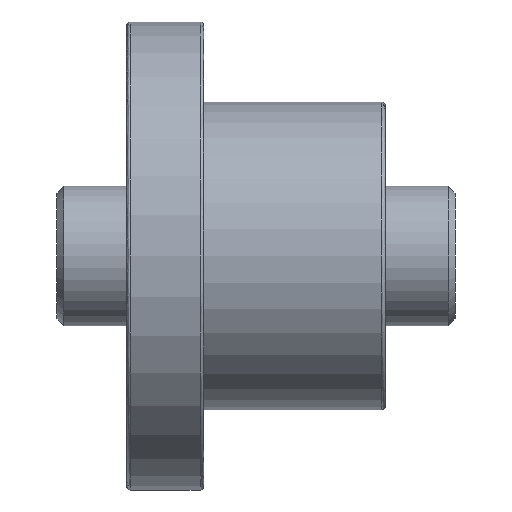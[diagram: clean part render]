
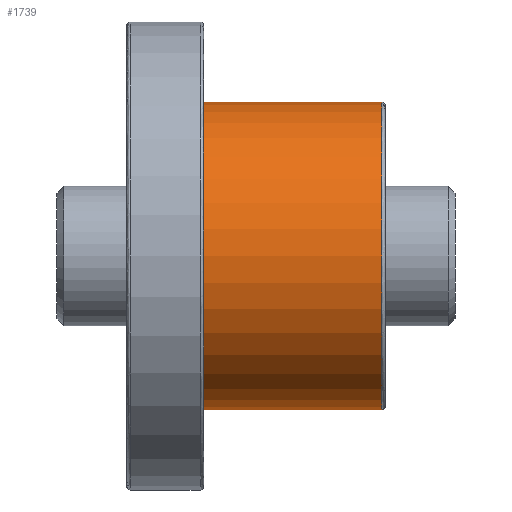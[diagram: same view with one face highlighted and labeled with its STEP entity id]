
A CAD part, front view. The second image highlights one B-rep face of the part: STEP entity #1739.
In plain terms, the highlighted cylindrical face has radius 22 mm (diameter 44 mm), a partial arc.
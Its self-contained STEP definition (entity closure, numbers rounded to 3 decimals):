
#151 = CIRCLE ( 'NONE', #4833, 22. ) ;
#195 = CARTESIAN_POINT ( 'NONE',  ( 11., 0., 22. ) ) ;
#468 = DIRECTION ( 'NONE',  ( 0., 0., 1. ) ) ;
#742 = CARTESIAN_POINT ( 'NONE',  ( 36.5, 0., 0. ) ) ;
#1077 = CARTESIAN_POINT ( 'NONE',  ( 36.5, 0., 22. ) ) ;
#1197 = ORIENTED_EDGE ( 'NONE', *, *, #5835, .F. ) ;
#1227 = AXIS2_PLACEMENT_3D ( 'NONE', #7378, #1850, #2457 ) ;
#1368 = EDGE_LOOP ( 'NONE', ( #4532, #8180, #3235, #1197 ) ) ;
#1739 = ADVANCED_FACE ( 'NONE', ( #4772 ), #7643, .T. ) ;
#1850 = DIRECTION ( 'NONE',  ( -1., 0., 0. ) ) ;
#1854 = VERTEX_POINT ( 'NONE', #3165 ) ;
#1952 = DIRECTION ( 'NONE',  ( -1., 0., 0. ) ) ;
#2044 = VECTOR ( 'NONE', #5167, 1000. ) ;
#2083 = CARTESIAN_POINT ( 'NONE',  ( 37., 0., 22. ) ) ;
#2250 = CARTESIAN_POINT ( 'NONE',  ( 37., 0., -22. ) ) ;
#2342 = EDGE_CURVE ( 'NONE', #7406, #7662, #5353, .T. ) ;
#2457 = DIRECTION ( 'NONE',  ( 0., 0., 1. ) ) ;
#3165 = CARTESIAN_POINT ( 'NONE',  ( 11., 0., -22. ) ) ;
#3235 = ORIENTED_EDGE ( 'NONE', *, *, #5121, .T. ) ;
#3613 = VECTOR ( 'NONE', #5883, 1000. ) ;
#3627 = CARTESIAN_POINT ( 'NONE',  ( 11., 0., 0. ) ) ;
#3707 = LINE ( 'NONE', #2250, #3613 ) ;
#4532 = ORIENTED_EDGE ( 'NONE', *, *, #5268, .F. ) ;
#4542 = CARTESIAN_POINT ( 'NONE',  ( 36.5, 0., -22. ) ) ;
#4772 = FACE_OUTER_BOUND ( 'NONE', #1368, .T. ) ;
#4833 = AXIS2_PLACEMENT_3D ( 'NONE', #3627, #7461, #468 ) ;
#5121 = EDGE_CURVE ( 'NONE', #7662, #7482, #6664, .T. ) ;
#5167 = DIRECTION ( 'NONE',  ( -1., 0., 0. ) ) ;
#5268 = EDGE_CURVE ( 'NONE', #7406, #1854, #3707, .T. ) ;
#5353 = CIRCLE ( 'NONE', #7563, 22. ) ;
#5835 = EDGE_CURVE ( 'NONE', #1854, #7482, #151, .T. ) ;
#5883 = DIRECTION ( 'NONE',  ( -1., 0., 0. ) ) ;
#6664 = LINE ( 'NONE', #2083, #2044 ) ;
#7007 = DIRECTION ( 'NONE',  ( 0., 0., 1. ) ) ;
#7378 = CARTESIAN_POINT ( 'NONE',  ( 37., 0., 0. ) ) ;
#7406 = VERTEX_POINT ( 'NONE', #4542 ) ;
#7461 = DIRECTION ( 'NONE',  ( -1., 0., 0. ) ) ;
#7482 = VERTEX_POINT ( 'NONE', #195 ) ;
#7563 = AXIS2_PLACEMENT_3D ( 'NONE', #742, #1952, #7007 ) ;
#7643 = CYLINDRICAL_SURFACE ( 'NONE', #1227, 22. ) ;
#7662 = VERTEX_POINT ( 'NONE', #1077 ) ;
#8180 = ORIENTED_EDGE ( 'NONE', *, *, #2342, .T. ) ;
